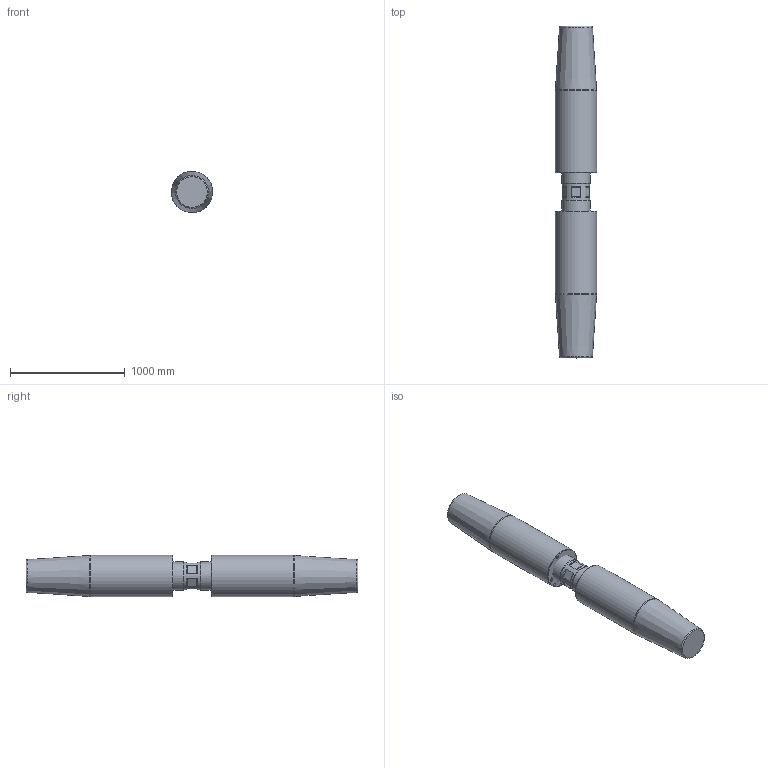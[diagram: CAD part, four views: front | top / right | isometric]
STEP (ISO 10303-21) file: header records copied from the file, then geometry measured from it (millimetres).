
FILE_DESCRIPTION(/* description */ (''),/* implementation_level */ '2;1');
FILE_NAME(/* name */ 'D:\Clienti\Redaelli (inventor)\CYA\STEP\Arrangement\CYA124 52 061 2.stp',/* time_stamp */ '2021-05-09T10:42:21+02:00',/* author */ ('fabri'),/* organization */ (''),/* preprocessor_version */ 'ST-DEVELOPER v16.13',/* originating_system */ 'Autodesk Inventor 2018',/* authorisation */ '');
FILE_SCHEMA (('AUTOMOTIVE_DESIGN { 1 0 10303 214 3 1 1 }'));
Length unit declared in the file: millimetre
Products named in the file (4): CYA012-54-062-0; TBF012-12-012-1; TBF012-13-012-0; TBF012-13-012-0_1
Assembly tree (3 placements, depth 2):
  CYA012-54-062-0
    TBF012-12-012-1
    TBF012-13-012-0
    TBF012-13-012-0_1
Bounding box: 359.78 x 2894 x 359.78 mm (x, y, z)
Volume: 296126305 mm3; surface area: 4155026.7 mm2
Topology: 3 solids, 3 shells, 487 faces, 1308 edges, 870 vertices
Faces by surface type: plane 252, bspline 192, cylinder 25, cone 14, torus 4
Full cylindrical faces by diameter (mm): 17.294 x2, 20.752 x6, 239 x1, 245 x2, 360 x2
Entity records: 16438 total; most frequent: CARTESIAN_POINT 5607, ORIENTED_EDGE 2538, DIRECTION 1507, EDGE_CURVE 1269, VERTEX_POINT 862, LINE 823, VECTOR 823, EDGE_LOOP 561
